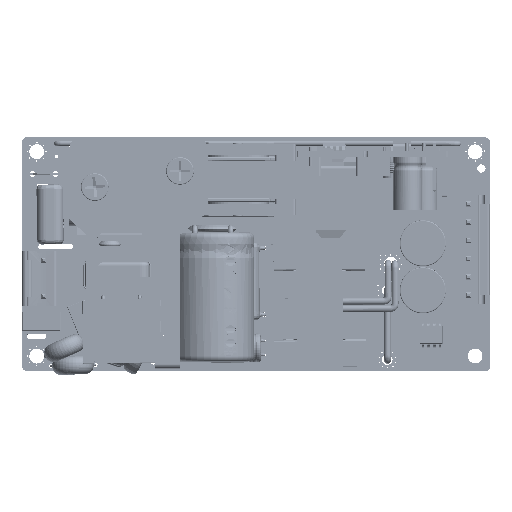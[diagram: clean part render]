
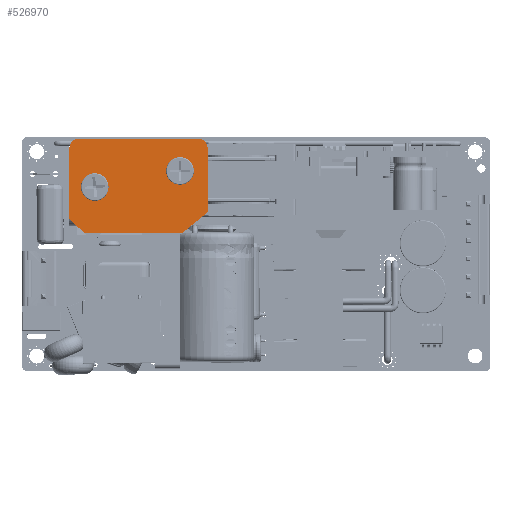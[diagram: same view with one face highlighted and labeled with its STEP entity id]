
A CAD part, top view. The second image highlights one B-rep face of the part: STEP entity #526970.
In plain terms, the highlighted planar face has unit normal (0, 0, 1) as drawn and (0, 1, 0) by its records, which use the part's own axes.
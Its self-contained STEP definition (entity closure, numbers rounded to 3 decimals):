
#525963=DIRECTION('',(1.,0.,0.));
#525964=VECTOR('',#525963,21.428);
#525965=CARTESIAN_POINT('',(-0.436,1.53,-28.));
#525966=LINE('',#525965,#525964);
#525971=CARTESIAN_POINT('',(20.4,1.53,-41.4));
#525972=DIRECTION('',(0.,-1.,0.));
#525973=DIRECTION('',(-1.,0.,0.));
#525974=AXIS2_PLACEMENT_3D('',#525971,#525972,#525973);
#525976=CARTESIAN_POINT('',(20.4,1.53,-41.4));
#525977=DIRECTION('',(0.,-1.,0.));
#525978=DIRECTION('',(1.,0.,0.));
#525979=AXIS2_PLACEMENT_3D('',#525976,#525977,#525978);
#525981=CARTESIAN_POINT('',(1.9,1.53,-37.9));
#525982=DIRECTION('',(0.,-1.,0.));
#525983=DIRECTION('',(-1.,0.,0.));
#525984=AXIS2_PLACEMENT_3D('',#525981,#525982,#525983);
#525986=CARTESIAN_POINT('',(1.9,1.53,-37.9));
#525987=DIRECTION('',(0.,-1.,0.));
#525988=DIRECTION('',(1.,0.,0.));
#525989=AXIS2_PLACEMENT_3D('',#525986,#525987,#525988);
#525991=DIRECTION('',(0.,0.,-1.));
#525992=VECTOR('',#525991,14.);
#525993=CARTESIAN_POINT('',(26.4,1.53,-32.4));
#525994=LINE('',#525993,#525992);
#525995=DIRECTION('',(0.776,0.,-0.631));
#525996=VECTOR('',#525995,6.972);
#525997=CARTESIAN_POINT('',(20.992,1.53,-28.));
#525998=LINE('',#525997,#525996);
#525999=DIRECTION('',(0.737,0.,0.676));
#526000=VECTOR('',#525999,4.292);
#526001=CARTESIAN_POINT('',(-3.6,1.53,-30.9));
#526002=LINE('',#526001,#526000);
#526003=DIRECTION('',(0.,0.,1.));
#526004=VECTOR('',#526003,15.5);
#526005=CARTESIAN_POINT('',(-3.6,1.53,-46.4));
#526006=LINE('',#526005,#526004);
#526007=CARTESIAN_POINT('',(-1.6,1.53,-46.4));
#526008=DIRECTION('',(0.,1.,0.));
#526009=DIRECTION('',(0.,0.,-1.));
#526010=AXIS2_PLACEMENT_3D('',#526007,#526008,#526009);
#526012=DIRECTION('',(-1.,0.,0.));
#526013=VECTOR('',#526012,26.);
#526014=CARTESIAN_POINT('',(24.4,1.53,-48.4));
#526015=LINE('',#526014,#526013);
#526016=CARTESIAN_POINT('',(24.4,1.53,-46.4));
#526017=DIRECTION('',(0.,1.,0.));
#526018=DIRECTION('',(1.,0.,0.));
#526019=AXIS2_PLACEMENT_3D('',#526016,#526017,#526018);
#526539=CARTESIAN_POINT('',(17.4,1.53,-41.4));
#526540=CARTESIAN_POINT('',(23.4,1.53,-41.4));
#526541=VERTEX_POINT('',#526539);
#526542=VERTEX_POINT('',#526540);
#526543=CARTESIAN_POINT('',(-1.1,1.53,-37.9));
#526544=CARTESIAN_POINT('',(4.9,1.53,-37.9));
#526545=VERTEX_POINT('',#526543);
#526546=VERTEX_POINT('',#526544);
#526547=CARTESIAN_POINT('',(26.4,1.53,-32.4));
#526548=CARTESIAN_POINT('',(26.4,1.53,-46.4));
#526549=VERTEX_POINT('',#526547);
#526550=VERTEX_POINT('',#526548);
#526551=CARTESIAN_POINT('',(24.4,1.53,-48.4));
#526552=VERTEX_POINT('',#526551);
#526553=CARTESIAN_POINT('',(-1.6,1.53,-48.4));
#526554=VERTEX_POINT('',#526553);
#526555=CARTESIAN_POINT('',(-3.6,1.53,-46.4));
#526556=VERTEX_POINT('',#526555);
#526557=CARTESIAN_POINT('',(-3.6,1.53,-30.9));
#526558=VERTEX_POINT('',#526557);
#526559=CARTESIAN_POINT('',(-0.436,1.53,-28.));
#526560=VERTEX_POINT('',#526559);
#526561=CARTESIAN_POINT('',(20.992,1.53,-28.));
#526562=VERTEX_POINT('',#526561);
#526936=CARTESIAN_POINT('',(0.,1.53,0.));
#526937=DIRECTION('',(0.,1.,0.));
#526938=DIRECTION('',(-1.,0.,0.));
#526939=AXIS2_PLACEMENT_3D('',#526936,#526937,#526938);
#526940=PLANE('',#526939);
#526942=ORIENTED_EDGE('',*,*,#526941,.F.);
#526944=ORIENTED_EDGE('',*,*,#526943,.F.);
#526945=ORIENTED_EDGE('',*,*,#526920,.F.);
#526947=ORIENTED_EDGE('',*,*,#526946,.F.);
#526949=ORIENTED_EDGE('',*,*,#526948,.F.);
#526951=ORIENTED_EDGE('',*,*,#526950,.F.);
#526953=ORIENTED_EDGE('',*,*,#526952,.F.);
#526955=ORIENTED_EDGE('',*,*,#526954,.F.);
#526956=EDGE_LOOP('',(#526942,#526944,#526945,#526947,#526949,#526951,#526953,
#526955));
#526957=FACE_OUTER_BOUND('',#526956,.F.);
#526959=ORIENTED_EDGE('',*,*,#526958,.F.);
#526961=ORIENTED_EDGE('',*,*,#526960,.F.);
#526962=EDGE_LOOP('',(#526959,#526961));
#526963=FACE_BOUND('',#526962,.F.);
#526965=ORIENTED_EDGE('',*,*,#526964,.F.);
#526967=ORIENTED_EDGE('',*,*,#526966,.F.);
#526968=EDGE_LOOP('',(#526965,#526967));
#526969=FACE_BOUND('',#526968,.F.);
#525975=CIRCLE('',#525974,3.);
#525980=CIRCLE('',#525979,3.);
#525985=CIRCLE('',#525984,3.);
#525990=CIRCLE('',#525989,3.);
#526011=CIRCLE('',#526010,2.);
#526020=CIRCLE('',#526019,2.);
#526920=EDGE_CURVE('',#526560,#526562,#525966,.T.);
#526941=EDGE_CURVE('',#526549,#526550,#525994,.T.);
#526943=EDGE_CURVE('',#526562,#526549,#525998,.T.);
#526946=EDGE_CURVE('',#526558,#526560,#526002,.T.);
#526948=EDGE_CURVE('',#526556,#526558,#526006,.T.);
#526950=EDGE_CURVE('',#526554,#526556,#526011,.T.);
#526952=EDGE_CURVE('',#526552,#526554,#526015,.T.);
#526954=EDGE_CURVE('',#526550,#526552,#526020,.T.);
#526958=EDGE_CURVE('',#526545,#526546,#525985,.T.);
#526960=EDGE_CURVE('',#526546,#526545,#525990,.T.);
#526964=EDGE_CURVE('',#526541,#526542,#525975,.T.);
#526966=EDGE_CURVE('',#526542,#526541,#525980,.T.);
#526970=ADVANCED_FACE('',(#526957,#526963,#526969),#526940,.T.);
